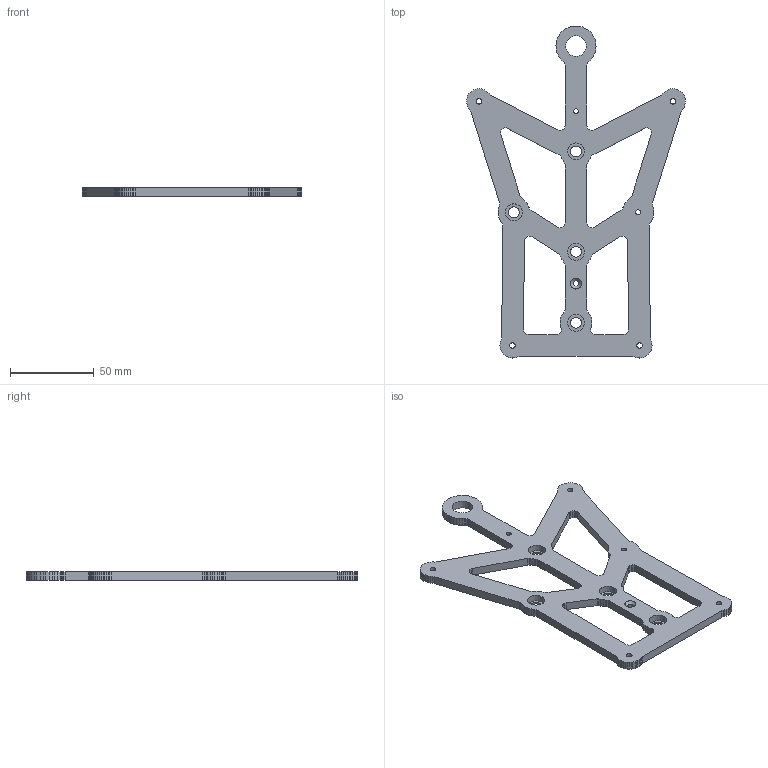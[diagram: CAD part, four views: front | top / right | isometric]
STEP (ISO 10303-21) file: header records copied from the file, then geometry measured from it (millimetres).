
FILE_DESCRIPTION(('Open CASCADE Model'),'2;1');
FILE_NAME('Open CASCADE Shape Model','2026-10-05T13:03:04',('Author'),( 'Open CASCADE'),'Open CASCADE STEP processor 7.9','Open CASCADE 7.9' ,'Unknown');
FILE_SCHEMA(('AUTOMOTIVE_DESIGN { 1 0 10303 214 1 1 1 1 }'));
Length unit declared in the file: millimetre
Products named in the file (1): Open CASCADE STEP translator 7.9 2
Bounding box: 130.98 x 198.48 x 5 mm (x, y, z)
Volume: 46900 mm3; surface area: 26692 mm2
Topology: 1 solids, 1 shells, 341 faces, 1004 edges, 669 vertices
Faces by surface type: plane 324, cylinder 16, cone 1
Full cylindrical faces by diameter (mm): 3 x2, 3.4 x5, 6.5 x4, 10.1 x4, 12.4 x1
Entity records: 24341 total; most frequent: CARTESIAN_POINT 4167, DIRECTION 3705, LINE 2947, VECTOR 2947, ORIENTED_EDGE 2008, PCURVE 2008, DEFINITIONAL_REPRESENTATION 2008, EDGE_CURVE 1004
